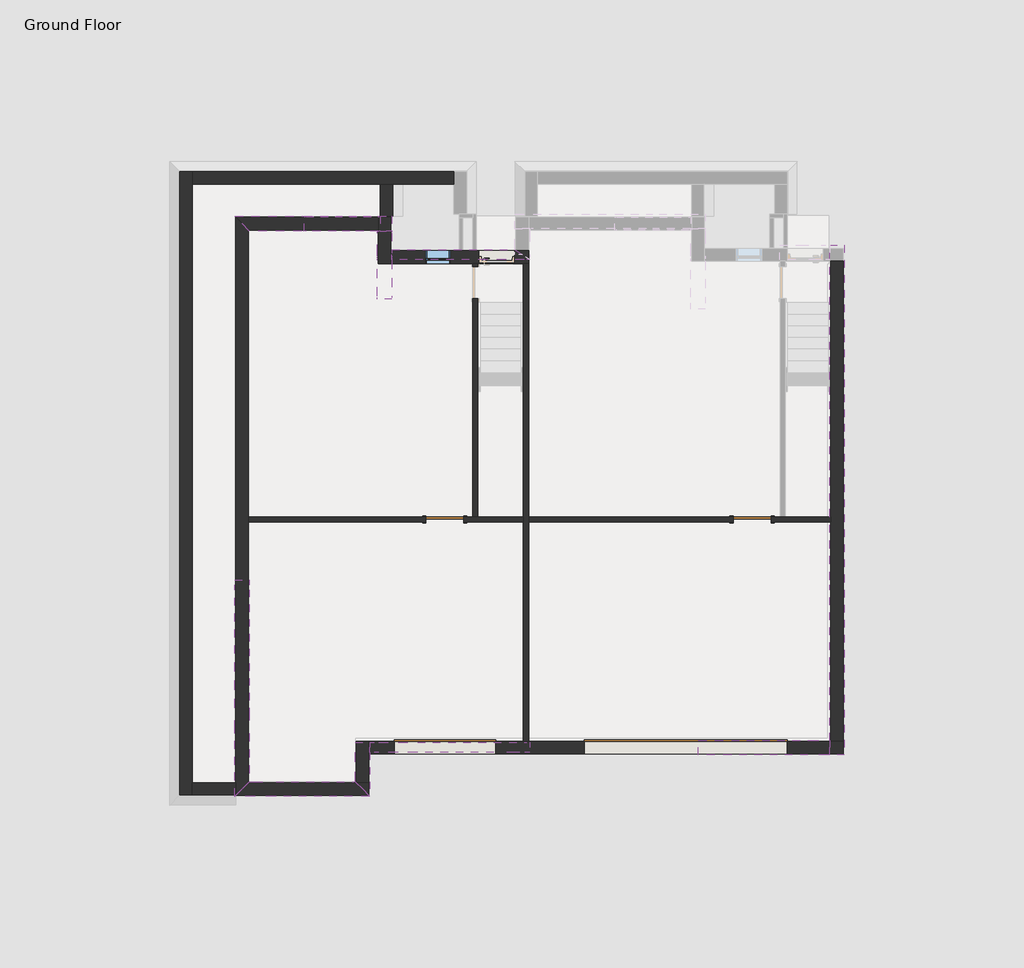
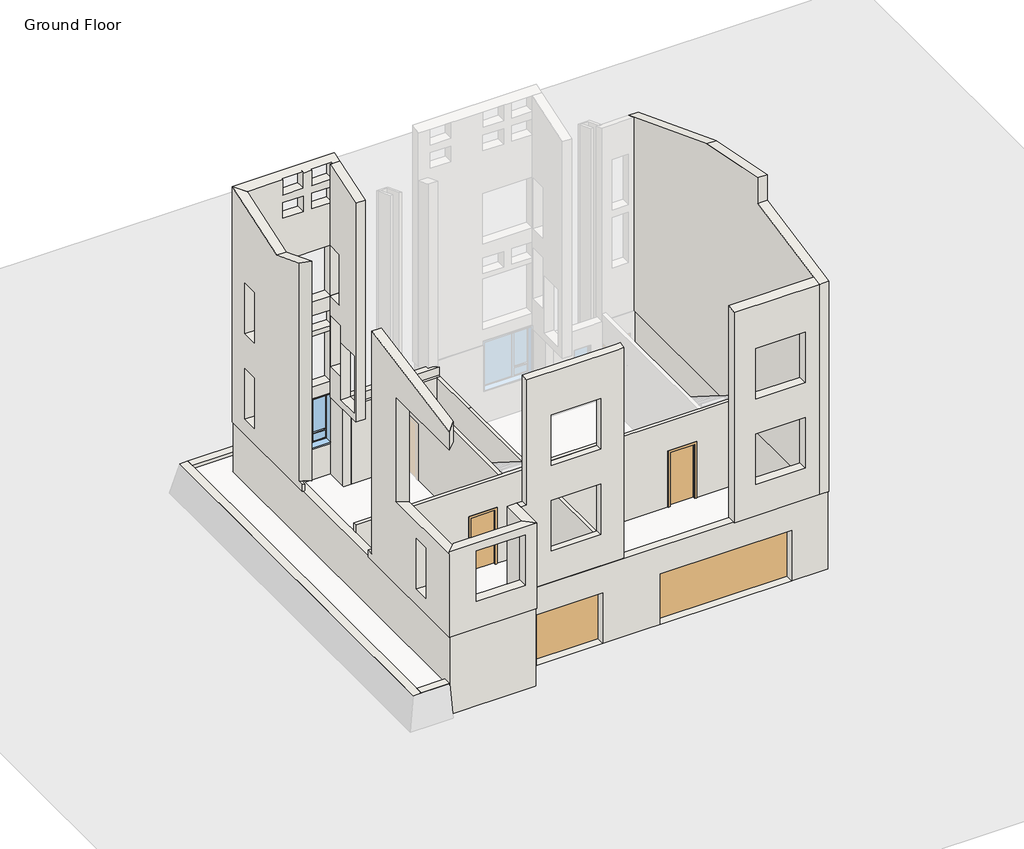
# One storey, part 1 of 2: 25 walls, 4 doors, 2 windows.
"""IFC4 building model written with IfcOpenShell, lengths in millimetres."""

from ifc_helpers import new_model, si_unit, frame, origin, place, context, project, spatial, polyline, outline, extrude, faceted_brep, transform, mapped, element, save
from components import door_03d53f81, door_8bec8b28, door_88503111, window_ca6665d5, window_7b40078c

model = new_model("IFC4")

# Units and contexts
model_context = context("Model", 3, world=origin())
ifc_project = project(units=[si_unit("LENGTHUNIT", "METRE", prefix="MILLI")], contexts=[model_context])

# Site, building, storey
site = spatial("IfcSite", under=ifc_project)
building = spatial("IfcBuilding", under=site)
storey = spatial("IfcBuildingStorey", under=building, Name="Ground Floor", Elevation=-3352.8)

# Doors
placement = place(None, origin())
door_shape = door_03d53f81(model_context)
element("IfcDoor", 1, ObjectType="Door-Overhead-Sectional : 16' x 6'-6\"", at=placement, inside=storey, context=model_context, shape_type="MappedRepresentation", body=[
    mapped(door_shape, transform((2182.7178219, -6034.5046456, -3352.8), x_axis=(1.0, 0.0, 0.0), y_axis=(0.0, 1.0, 0.0), z_axis=(0.0, 0.0, 1.0))),
])
door_2_shape = door_8bec8b28(model_context)
element("IfcDoor", 2, ObjectType="Door-Overhead-Sectional : 8' x 6'-6\"", at=placement, inside=storey, context=model_context, shape_type="MappedRepresentation", body=[
    mapped(door_2_shape, transform((-3608.4821781, -6034.5046456, -3352.8), x_axis=(-1.0, 0.0, 0.0), y_axis=(0.0, -1.0, 0.0), z_axis=(0.0, 0.0, 1.0))),
])
door_3_shape = door_88503111(model_context)
element("IfcDoor", 3, ObjectType="Single-Flush : 36\" x 84\"", at=placement, inside=storey, context=model_context, shape_type="MappedRepresentation", body=[
    mapped(door_3_shape, transform((-3614.4696781, -546.2436915, -3352.8), x_axis=(1.0, 0.0, 0.0), y_axis=(0.0, 1.0, 0.0), z_axis=(0.0, 0.0, 1.0))),
])
element("IfcDoor", 4, ObjectType="Single-Flush : 36\" x 84\"", at=placement, inside=storey, context=model_context, shape_type="MappedRepresentation", body=[
    mapped(door_3_shape, transform((3776.1161072, -551.0718139, -3352.8), x_axis=(1.0, 0.0, 0.0), y_axis=(0.0, 1.0, 0.0), z_axis=(0.0, 0.0, 1.0))),
])

# Walls
element("IfcWall", 5, ObjectType="Exterior - Brick", at=placement, inside=storey, context=model_context, shape_type="Brep", body=[
    faceted_brep([(-5413.4696781, -7206.5436915, -304.8), (-5413.4696781, -6155.1546456, -304.8), (-5413.4696781, -5913.8546456, -304.8), (-5413.4696781, -5913.8546456, 3048.0), (-5413.4696781, -6155.1546456, 3048.0), (-5413.4696781, -7206.5436915, 3048.0), (-5765.8946781, -6854.1186915, -304.8), (-5765.8946781, -6854.1186915, 3048.0), (-5765.8946781, -5913.8546456, 3048.0), (-5765.8946781, -5913.8546456, -304.8)], [[[0, 1, 2, 3, 4, 5]], [[6, 7, 8, 9]], [[2, 1, 0, 6, 9]], [[3, 2, 9, 8]], [[0, 5, 7, 6]], [[5, 4, 3, 8, 7]]]),
])
element("IfcWall", 6, ObjectType="Exterior - Brick on Mtl. Stud", at=placement, inside=storey, context=model_context, shape_type="Brep", body=[
    faceted_brep([(-8312.2446781, 6389.4938085, 8822.2842549), (-8312.2446781, 6389.4938085, 0.0), (-8312.2446781, 6389.4938085, -304.8), (-6989.0821781, 6389.4938085, -304.8), (-6989.0821781, 6389.4938085, -152.4), (-5160.2821781, 6389.4938085, -152.4), (-5160.2821781, 6389.4938085, -304.8), (-4883.0196781, 6389.4938085, -304.8), (-4883.0196781, 6389.4938085, 3657.6), (-5235.4446781, 6389.4938085, 3657.6), (-7048.4446781, 6389.4938085, 3657.6), (-7048.4446781, 6389.4938085, 5638.8), (-5235.4446781, 6389.4938085, 5638.8), (-4883.0196781, 6389.4938085, 5638.8), (-4883.0196781, 6389.4938085, 8822.2842549), (-5160.2821781, 6389.4938085, 8822.2842549), (-5160.2821781, 6389.4938085, 8229.6), (-5922.2821781, 6389.4938085, 8229.6), (-5922.2821781, 6389.4938085, 8822.2842549), (-6227.0821781, 6389.4938085, 8822.2842549), (-6227.0821781, 6389.4938085, 8229.6), (-6989.0821781, 6389.4938085, 8229.6), (-6989.0821781, 6389.4938085, 8822.2842549), (-5160.2821781, 6389.4938085, 3098.8), (-5160.2821781, 6389.4938085, 2489.2), (-5922.2821781, 6389.4938085, 2489.2), (-5922.2821781, 6389.4938085, 3098.8), (-5160.2821781, 6389.4938085, 7924.8), (-5160.2821781, 6389.4938085, 7315.2), (-5922.2821781, 6389.4938085, 7315.2), (-5922.2821781, 6389.4938085, 7924.8), (-6989.0821781, 6389.4938085, 2489.2), (-6989.0821781, 6389.4938085, 3098.8), (-6227.0821781, 6389.4938085, 3098.8), (-6227.0821781, 6389.4938085, 2489.2), (-6227.0821781, 6389.4938085, 7924.8), (-6227.0821781, 6389.4938085, 7315.2), (-6989.0821781, 6389.4938085, 7315.2), (-6989.0821781, 6389.4938085, 7924.8), (-5219.6446781, 6389.4938085, 2286.0), (-5219.6446781, 6389.4938085, 304.8), (-7048.4446781, 6389.4938085, 304.8), (-7048.4446781, 6389.4938085, 2286.0), (-8664.6696781, 6741.9188085, 8938.1680475), (-4883.0196781, 6741.9188085, 8938.1680475), (-4883.0196781, 6741.9188085, -304.8), (-5160.2821781, 6741.9188085, -304.8), (-5160.2821781, 6741.9188085, -152.4), (-6989.0821781, 6741.9188085, -152.4), (-6989.0821781, 6741.9188085, -304.8), (-8664.6696781, 6741.9188085, -304.8), (-5160.2821781, 6741.9188085, 8229.6), (-5160.2821781, 6741.9188085, 8839.2), (-5922.2821781, 6741.9188085, 8839.2), (-5922.2821781, 6741.9188085, 8229.6), (-6227.0821781, 6741.9188085, 8229.6), (-6227.0821781, 6741.9188085, 8839.2), (-6989.0821781, 6741.9188085, 8839.2), (-6989.0821781, 6741.9188085, 8229.6), (-5219.6446781, 6741.9188085, 3657.6), (-5219.6446781, 6741.9188085, 5638.8), (-7048.4446781, 6741.9188085, 5638.8), (-7048.4446781, 6741.9188085, 3657.6), (-5160.2821781, 6741.9188085, 2489.2), (-5160.2821781, 6741.9188085, 3098.8), (-5922.2821781, 6741.9188085, 3098.8), (-5922.2821781, 6741.9188085, 2489.2), (-5160.2821781, 6741.9188085, 7315.2), (-5160.2821781, 6741.9188085, 7924.8), (-5922.2821781, 6741.9188085, 7924.8), (-5922.2821781, 6741.9188085, 7315.2), (-6989.0821781, 6741.9188085, 3098.8), (-6989.0821781, 6741.9188085, 2489.2), (-6227.0821781, 6741.9188085, 2489.2), (-6227.0821781, 6741.9188085, 3098.8), (-6227.0821781, 6741.9188085, 7315.2), (-6227.0821781, 6741.9188085, 7924.8), (-6989.0821781, 6741.9188085, 7924.8), (-6989.0821781, 6741.9188085, 7315.2), (-5219.6446781, 6741.9188085, 304.8), (-5219.6446781, 6741.9188085, 2286.0), (-7048.4446781, 6741.9188085, 2286.0), (-7048.4446781, 6741.9188085, 304.8), (-6989.0821781, 6440.9378573, 8839.2), (-6227.0821781, 6440.9378573, 8839.2), (-5922.2821781, 6440.9378573, 8839.2), (-5160.2821781, 6440.9378573, 8839.2), (-4883.0196781, 6394.6313085, 5638.8), (-4883.0196781, 6394.6313085, 3657.6), (-5219.6446781, 6394.6313085, 3657.6), (-5219.6446781, 6394.6313085, 5638.8)], [[[0, 1, 2, 3, 4, 5, 6, 7, 8, 9, 10, 11, 12, 13, 14, 15, 16, 17, 18, 19, 20, 21, 22], [23, 24, 25, 26], [27, 28, 29, 30], [31, 32, 33, 34], [35, 36, 37, 38], [39, 40, 41, 42]], [[43, 44, 45, 46, 47, 48, 49, 50], [51, 52, 53, 54], [55, 56, 57, 58], [59, 60, 61, 62], [63, 64, 65, 66], [67, 68, 69, 70], [71, 72, 73, 74], [75, 76, 77, 78], [79, 80, 81, 82]], [[45, 7, 6, 46]], [[2, 50, 49, 3]], [[44, 43, 0, 22, 83, 84, 19, 18, 85, 86, 15, 14]], [[7, 45, 44, 14, 13, 87, 88, 8]], [[2, 1, 0, 43, 50]], [[5, 47, 46, 6]], [[48, 4, 3, 49]], [[47, 5, 4, 48]], [[86, 52, 51, 16, 15]], [[16, 51, 54, 17]], [[17, 54, 53, 85, 18]], [[52, 86, 85, 53]], [[84, 56, 55, 20, 19]], [[20, 55, 58, 21]], [[21, 58, 57, 83, 22]], [[56, 84, 83, 57]], [[60, 59, 89, 90]], [[62, 10, 9, 8, 88, 89, 59]], [[10, 62, 61, 11]], [[11, 61, 60, 90, 87, 13, 12]], [[87, 90, 89, 88]], [[23, 64, 63, 24]], [[24, 63, 66, 25]], [[25, 66, 65, 26]], [[64, 23, 26, 65]], [[27, 68, 67, 28]], [[28, 67, 70, 29]], [[29, 70, 69, 30]], [[68, 27, 30, 69]], [[72, 71, 32, 31]], [[73, 72, 31, 34]], [[74, 73, 34, 33]], [[71, 74, 33, 32]], [[36, 35, 76, 75]], [[37, 36, 75, 78]], [[38, 37, 78, 77]], [[35, 38, 77, 76]], [[39, 80, 79, 40]], [[40, 79, 82, 41]], [[41, 82, 81, 42]], [[80, 39, 42, 81]]]),
])
element("IfcWall", 7, ObjectType="Exterior - Brick on Mtl. Stud", at=placement, inside=storey, context=model_context, shape_type="Brep", body=[
    faceted_brep([(-8664.6696781, -7206.5436915, 2952.8), (-8664.6696781, -3770.7811915, 2952.8), (-8664.6696781, -3770.7811915, 7052.8), (-8664.6696781, -7206.5436915, 7052.8), (-8664.6696781, -7206.5436915, 7759.9905277), (-8664.6696781, -2238.8436915, 8711.0519224), (-8664.6696781, -2238.8436915, -28.575), (-8664.6696781, -1997.5436915, -28.575), (-8664.6696781, -1997.5436915, -304.8), (-8664.6696781, -7206.5436915, -304.8), (-8664.6696781, -5688.3425794, 2286.0), (-8664.6696781, -5688.3425794, 304.8), (-8664.6696781, -5078.7425794, 304.8), (-8664.6696781, -5078.7425794, 2286.0), (-8312.2446781, -4012.0811915, 2952.8), (-8312.2446781, -6854.1186915, 2952.8), (-8312.2446781, -6854.1186915, 0.0), (-8312.2446781, -6854.1186915, -304.8), (-8312.2446781, -1997.5436915, -304.8), (-8312.2446781, -1997.5436915, -28.575), (-8312.2446781, -2238.8436915, -28.575), (-8312.2446781, -2238.8436915, 0.0), (-8312.2446781, -2238.8436915, 8711.0519224), (-8312.2446781, -6854.1186915, 7827.4619555), (-8312.2446781, -6854.1186915, 7052.8), (-8312.2446781, -4012.0811915, 7052.8), (-8312.2446781, -5688.3425794, 304.8), (-8312.2446781, -5688.3425794, 2286.0), (-8312.2446781, -5078.7425794, 2286.0), (-8312.2446781, -5078.7425794, 304.8)], [[[0, 1, 2, 3, 4, 5, 6, 7, 8, 9], [10, 11, 12, 13]], [[14, 15, 16, 17, 18, 19, 20, 21, 22, 23, 24, 25], [26, 27, 28, 29]], [[17, 9, 8, 18]], [[1, 0, 15, 14]], [[3, 2, 25, 24]], [[5, 4, 23, 22]], [[6, 20, 19, 7]], [[0, 9, 17, 16, 15]], [[4, 3, 24, 23]], [[6, 5, 22, 21, 20]], [[2, 1, 14, 25]], [[11, 10, 27, 26]], [[12, 11, 26, 29]], [[13, 12, 29, 28]], [[10, 13, 28, 27]], [[8, 7, 19, 18]]]),
    faceted_brep([(-8664.6696781, 2472.0574206, 8523.0431626), (-8664.6696781, 3870.984475, 7984.4952914), (-8664.6696781, 6741.9188085, 8938.7995342), (-8664.6696781, 6741.9188085, -304.8), (-8664.6696781, 2230.7574206, -304.8), (-8664.6696781, 2230.7574206, -28.575), (-8664.6696781, 2472.0574206, -28.575), (-8664.6696781, 5921.5563085, 304.8), (-8664.6696781, 5921.5563085, 2286.0), (-8664.6696781, 5311.9563085, 2286.0), (-8664.6696781, 5311.9563085, 304.8), (-8664.6696781, 5921.5563085, 3657.6), (-8664.6696781, 5921.5563085, 5638.8), (-8664.6696781, 5311.9563085, 5638.8), (-8664.6696781, 5311.9563085, 3657.6), (-8312.2446781, 3870.984475, 7984.4952914), (-8312.2446781, 2230.7574206, 8615.9369278), (-8312.2446781, 2230.7574206, 0.0), (-8312.2446781, 6389.4938085, 0.0), (-8312.2446781, 6389.4938085, 8821.6527681), (-8312.2446781, 5921.5563085, 2286.0), (-8312.2446781, 5921.5563085, 304.8), (-8312.2446781, 5311.9563085, 304.8), (-8312.2446781, 5311.9563085, 2286.0), (-8312.2446781, 5921.5563085, 5638.8), (-8312.2446781, 5921.5563085, 3657.6), (-8312.2446781, 5311.9563085, 3657.6), (-8312.2446781, 5311.9563085, 5638.8), (-8312.2446781, 6389.4938085, -304.8), (-8566.5821781, 6389.4938085, -304.8), (-8566.5821781, 2230.7574206, -304.8), (-8566.5821781, 2230.7574206, -28.575), (-8566.5821781, 2404.8984116, -28.575), (-8566.5821781, 2404.8984116, 0.0), (-8566.5821781, 6389.4938085, 0.0)], [[[0, 1, 2, 3, 4, 5, 6], [7, 8, 9, 10], [11, 12, 13, 14]], [[15, 16, 17, 18, 19], [20, 21, 22, 23], [24, 25, 26, 27]], [[3, 28, 29, 30, 4]], [[6, 5, 31, 32]], [[1, 0, 16, 15]], [[2, 1, 15, 19]], [[0, 6, 32, 33, 17, 16]], [[3, 2, 19, 18, 28]], [[20, 8, 7, 21]], [[21, 7, 10, 22]], [[22, 10, 9, 23]], [[8, 20, 23, 9]], [[25, 24, 12, 11]], [[26, 25, 11, 14]], [[27, 26, 14, 13]], [[24, 27, 13, 12]], [[34, 18, 17, 33]], [[30, 31, 5, 4]], [[29, 34, 33, 32, 31, 30]], [[34, 29, 28, 18]]]),
])
element("IfcWall", 8, ObjectType="Exterior - Brick on Mtl. Stud", at=placement, inside=storey, context=model_context, shape_type="Brep", body=[
    faceted_brep([(-8664.6696781, -7206.5436915, -304.8), (-5413.4696781, -7206.5436915, -304.8), (-5413.4696781, -7206.5436915, 3048.0), (-8664.6696781, -7206.5436915, 3048.0), (-7671.3168819, -7206.5436915, 762.0), (-7671.3168819, -7206.5436915, 2743.2), (-5842.5168819, -7206.5436915, 2743.2), (-5842.5168819, -7206.5436915, 762.0), (-5765.8946781, -6854.1186915, -304.8), (-8312.2446781, -6854.1186915, -304.8), (-8312.2446781, -6854.1186915, 3048.0), (-5765.8946781, -6854.1186915, 3048.0), (-7671.3168819, -6854.1186915, 2743.2), (-7671.3168819, -6854.1186915, 762.0), (-5842.5168819, -6854.1186915, 762.0), (-5842.5168819, -6854.1186915, 2743.2)], [[[0, 1, 2, 3], [4, 5, 6, 7]], [[8, 9, 10, 11], [12, 13, 14, 15]], [[1, 0, 9, 8]], [[2, 1, 8, 11]], [[0, 3, 10, 9]], [[3, 2, 11, 10]], [[12, 5, 4, 13]], [[13, 4, 7, 14]], [[14, 7, 6, 15]], [[5, 12, 15, 6]]]),
])
element("IfcWall", 9, ObjectType="Exterior - Brick on Mtl. Stud", at=placement, inside=storey, context=model_context, shape_type="Brep", body=[
    faceted_brep([(5995.0780789, 6051.0812973, -304.8), (5995.0780789, 6051.0812973, 7133.9127133), (5995.0780789, 1023.3611207, 9069.4446552), (5995.0780789, -2238.8436915, 9713.3498366), (5995.0780789, -2238.8436915, 8705.6), (5995.0780789, -6210.7171456, 7938.1143772), (5995.0780789, -6210.7171456, -304.8), (5642.6530789, 6051.0812973, -304.8), (5642.6530789, 5698.6562973, -304.8), (5642.6530789, -5858.2921456, -304.8), (5642.6530789, -6210.7171456, -304.8), (5642.6530789, -6210.7171456, 7938.1143772), (5642.6530789, -5858.2921456, 8006.2135057), (5642.6530789, -2238.8436915, 8705.6), (5642.6530789, -2238.8436915, 9713.3498366), (5642.6530789, -1997.5436915, 9665.7212145), (5642.6530789, 1023.3611207, 9069.4446552), (5642.6530789, 5698.6562973, 7269.5865019), (5642.6530789, 6051.0812973, 7133.9127133)], [[[0, 1, 2, 3, 4, 5, 6]], [[7, 8, 9, 10, 11, 12, 13, 14, 15, 16, 17, 18]], [[10, 9, 8, 7, 0, 6]], [[11, 10, 6, 5]], [[7, 18, 1, 0]], [[3, 14, 13, 4]], [[13, 12, 11, 5, 4]], [[18, 17, 16, 2, 1]], [[16, 15, 14, 3, 2]]]),
])
element("IfcWall", 10, ObjectType="Exterior - Brick on Mtl. Stud", at=placement, inside=storey, context=model_context, shape_type="Brep", body=[
    faceted_brep([(-4883.0196781, 4753.1563085, -304.8), (-4883.0196781, 5697.0687973, -304.8), (-4883.0196781, 5938.3687973, -304.8), (-4883.0196781, 6389.4938085, -304.8), (-4883.0196781, 6389.4938085, 3657.6), (-4883.0196781, 5785.0313085, 3657.6), (-4883.0196781, 5785.0313085, 5638.8), (-4883.0196781, 6389.4938085, 5638.8), (-4883.0196781, 6389.4938085, 8822.2842549), (-4883.0196781, 4753.1563085, 8284.2265248), (-4883.0196781, 4826.1813085, 0.0), (-4883.0196781, 4826.1813085, 2235.2), (-4883.0196781, 5689.7813085, 2235.2), (-4883.0196781, 5689.7813085, 0.0), (-4883.0196781, 5734.2313085, 914.4), (-4883.0196781, 5734.2313085, 2895.6), (-4883.0196781, 6343.8313085, 2895.6), (-4883.0196781, 6343.8313085, 914.4), (-5235.4446781, 6389.4938085, -304.8), (-5235.4446781, 4753.1563085, -304.8), (-5235.4446781, 4753.1563085, 0.0), (-5235.4446781, 4753.1563085, 6705.6), (-5235.4446781, 4753.1563085, 8284.2265248), (-5235.4446781, 6389.4938085, 8822.2842549), (-5235.4446781, 6389.4938085, 5638.8), (-5235.4446781, 5785.0313085, 5638.8), (-5235.4446781, 5785.0313085, 3657.6), (-5235.4446781, 6389.4938085, 3657.6), (-5235.4446781, 4826.1813085, 0.0), (-5235.4446781, 5689.7813085, 0.0), (-5235.4446781, 5689.7813085, 2235.2), (-5235.4446781, 4826.1813085, 2235.2), (-5235.4446781, 5734.2313085, 2895.6), (-5235.4446781, 5734.2313085, 914.4), (-5235.4446781, 6343.8313085, 914.4), (-5235.4446781, 6343.8313085, 2895.6), (-5160.2821781, 6389.4938085, -304.8), (-5160.2821781, 6389.4938085, 8822.2842549)], [[[0, 1, 2, 3, 4, 5, 6, 7, 8, 9], [10, 11, 12, 13], [14, 15, 16, 17]], [[18, 19, 20, 21, 22, 23, 24, 25, 26, 27], [28, 29, 30, 31], [32, 33, 34, 35]], [[19, 18, 36, 3, 2, 1, 0]], [[11, 10, 28, 31]], [[12, 11, 31, 30]], [[13, 12, 30, 29]], [[10, 13, 29, 28]], [[23, 22, 9, 8, 37]], [[22, 21, 20, 19, 0, 9]], [[32, 15, 14, 33]], [[33, 14, 17, 34]], [[34, 17, 16, 35]], [[15, 32, 35, 16]], [[25, 6, 5, 26]], [[26, 5, 4, 27]], [[6, 25, 24, 7]], [[3, 36, 18, 27, 4]], [[23, 37, 8, 7, 24]]]),
])
element("IfcWall", 11, ObjectType="Exterior - Brick on Mtl. Stud", at=placement, inside=storey, context=model_context, shape_type="Brep", body=[
    faceted_brep([(2477.8178219, -5858.2921456, -304.8), (5642.6530789, -5858.2921456, -304.8), (5642.6530789, -6210.7171456, -304.8), (2477.8178219, -6210.7171456, -304.8), (2477.8178219, -5858.2921456, 8006.2135057), (5642.6530789, -5858.2921456, 8006.2135057), (3280.9655789, -5858.2921456, 6248.4), (3280.9655789, -5858.2921456, 4267.2), (5109.7655789, -5858.2921456, 4267.2), (5109.7655789, -5858.2921456, 6248.4), (3280.9655789, -5858.2921456, 2895.6), (3280.9655789, -5858.2921456, 914.4), (5109.7655789, -5858.2921456, 914.4), (5109.7655789, -5858.2921456, 2895.6), (5642.6530789, -6210.7171456, 7938.1143772), (2477.8178219, -6210.7171456, 7938.1143772), (3280.9655789, -6210.7171456, 4267.2), (3280.9655789, -6210.7171456, 6248.4), (5109.7655789, -6210.7171456, 6248.4), (5109.7655789, -6210.7171456, 4267.2), (3280.9655789, -6210.7171456, 914.4), (3280.9655789, -6210.7171456, 2895.6), (5109.7655789, -6210.7171456, 2895.6), (5109.7655789, -6210.7171456, 914.4)], [[[0, 1, 2, 3]], [[1, 0, 4, 5], [6, 7, 8, 9], [10, 11, 12, 13]], [[3, 2, 14, 15], [16, 17, 18, 19], [20, 21, 22, 23]], [[1, 5, 14, 2]], [[4, 0, 3, 15]], [[5, 4, 15, 14]], [[6, 17, 16, 7]], [[7, 16, 19, 8]], [[8, 19, 18, 9]], [[17, 6, 9, 18]], [[10, 21, 20, 11]], [[11, 20, 23, 12]], [[12, 23, 22, 13]], [[21, 10, 13, 22]]]),
])
element("IfcWall", 12, ObjectType="Exterior - Stucco", at=placement, inside=storey, context=model_context, shape_type="Brep", body=[
    faceted_brep([(-1928.5446781, 5938.3687973, -304.8), (-4883.0196781, 5938.3687973, -304.8), (-4883.0196781, 5938.3687973, 0.0), (-3024.9735601, 5938.3687973, 0.0), (-1928.5446781, 5938.3687973, 0.0), (-1576.1196781, 5697.0687973, -304.8), (-1576.1196781, 5697.0687973, 0.0), (-1699.9446781, 5697.0687973, 0.0), (-3024.9735601, 5697.0687973, 0.0), (-4883.0196781, 5697.0687973, 0.0), (-4883.0196781, 5697.0687973, -304.8)], [[[0, 1, 2, 3, 4]], [[5, 6, 7, 8, 9, 10]], [[1, 0, 5, 10]], [[4, 3, 2, 9, 8, 7, 6]], [[0, 4, 6, 5]], [[2, 1, 10, 9]]]),
])
element("IfcWall", 13, ObjectType="Exterior - Stucco", at=placement, inside=storey, context=model_context, shape_type="Brep", body=[
    faceted_brep([(-5413.4696781, -5913.8546456, -304.8), (-1576.1196781, -5913.8546456, -304.8), (-1576.1196781, -6155.1546456, -304.8), (-1817.4196781, -6155.1546456, -304.8), (-5413.4696781, -6155.1546456, -304.8), (-5413.4696781, -5913.8546456, 3048.0), (-5204.2321781, -5913.8546456, 3048.0), (-5204.2321781, -5913.8546456, 7995.4771566), (-1699.9446781, -5913.8546456, 7995.4771566), (-1576.1196781, -5913.8546456, 7995.4771566), (-1576.1196781, -5913.8546456, 0.0), (-2438.2515857, -5913.8546456, 6248.4), (-4267.0515857, -5913.8546456, 6248.4), (-4267.0515857, -5913.8546456, 4267.2), (-2438.2515857, -5913.8546456, 4267.2), (-2438.2515857, -5913.8546456, 2895.6), (-4267.0515857, -5913.8546456, 2895.6), (-4267.0515857, -5913.8546456, 914.4), (-2438.2515857, -5913.8546456, 914.4), (-1576.1196781, -6155.1546456, 7948.8507263), (-1817.4196781, -6155.1546456, 7948.8507263), (-5204.2321781, -6155.1546456, 7948.8507263), (-5204.2321781, -6155.1546456, 7052.6671875), (-5204.2321781, -6155.1546456, 3048.0), (-5413.4696781, -6155.1546456, 3048.0), (-2438.2515857, -6155.1546456, 6248.4), (-2438.2515857, -6155.1546456, 4267.2), (-4267.0515857, -6155.1546456, 4267.2), (-4267.0515857, -6155.1546456, 6248.4), (-2438.2515857, -6155.1546456, 2895.6), (-2438.2515857, -6155.1546456, 914.4), (-4267.0515857, -6155.1546456, 914.4), (-4267.0515857, -6155.1546456, 2895.6)], [[[0, 1, 2, 3, 4]], [[1, 0, 5, 6, 7, 8, 9, 10], [11, 12, 13, 14], [15, 16, 17, 18]], [[2, 19, 20, 21, 22, 23, 24, 4, 3], [25, 26, 27, 28], [29, 30, 31, 32]], [[5, 0, 4, 24]], [[1, 10, 9, 19, 2]], [[21, 7, 6, 23, 22]], [[6, 5, 24, 23]], [[9, 8, 7, 21, 20, 19]], [[26, 25, 11, 14]], [[27, 26, 14, 13]], [[28, 27, 13, 12]], [[25, 28, 12, 11]], [[30, 29, 15, 18]], [[31, 30, 18, 17]], [[32, 31, 17, 16]], [[29, 32, 16, 15]]]),
])
element("IfcWall", 14, ObjectType="Foundation - 12\" Concrete", at=placement, inside=storey, context=model_context, shape_type="Brep", body=[
    faceted_brep([(-8639.2696781, 6718.1063085, -5181.6), (-5211.6321781, 6718.1063085, -5181.6), (-5211.6321781, 6413.3063085, -5181.6), (-8334.4696781, 6413.3063085, -5181.6), (-8639.2696781, 6718.1063085, -304.8), (-6989.0821781, 6718.1063085, -304.8), (-6989.0821781, 6718.1063085, -2133.6), (-5211.6321781, 6718.1063085, -2133.6), (-5211.6321781, 6413.3063085, -2133.6), (-6989.0821781, 6413.3063085, -2133.6), (-6989.0821781, 6413.3063085, -304.8), (-8334.4696781, 6413.3063085, -304.8)], [[[0, 1, 2, 3]], [[1, 0, 4, 5, 6, 7]], [[3, 2, 8, 9, 10, 11]], [[4, 11, 10, 5]], [[4, 0, 3, 11]], [[2, 1, 7, 8]], [[6, 9, 8, 7]], [[9, 6, 5, 10]]]),
])
element("IfcWall", 15, ObjectType="Foundation - 12\" Concrete", at=placement, inside=storey, context=model_context, shape_type="Brep", body=[
    faceted_brep([(-8639.2696781, -7182.7311915, -5181.6), (-5437.2821781, -7182.7311915, -5181.6), (-5437.2821781, -7182.7311915, -304.8), (-8639.2696781, -7182.7311915, -304.8), (-8334.4696781, -6877.9311915, -5181.6), (-8334.4696781, -6877.9311915, -304.8), (-5742.0821781, -6877.9311915, -304.8), (-5437.2821781, -6877.9311915, -304.8), (-5437.2821781, -6877.9311915, -5181.6), (-5742.0821781, -6877.9311915, -5181.6)], [[[0, 1, 2, 3]], [[4, 5, 6, 7, 8, 9]], [[1, 0, 4, 9, 8]], [[3, 2, 7, 6, 5]], [[2, 1, 8, 7]], [[0, 3, 5, 4]]]),
])
element("IfcWall", 16, ObjectType="Foundation - 12\" Concrete", at=placement, inside=storey, context=model_context, shape_type="Brep", body=[
    faceted_brep([(-5437.2821781, -6877.9311915, -5181.6), (-5437.2821781, -6186.9046456, -5181.6), (-5437.2821781, -5882.1046456, -5181.6), (-5437.2821781, -5882.1046456, -304.8), (-5437.2821781, -6186.9046456, -304.8), (-5437.2821781, -6877.9311915, -304.8), (-5742.0821781, -6877.9311915, -5181.6), (-5742.0821781, -6877.9311915, -304.8), (-5742.0821781, -5882.1046456, -304.8), (-5742.0821781, -5882.1046456, -5181.6)], [[[0, 1, 2, 3, 4, 5]], [[6, 7, 8, 9]], [[2, 1, 0, 6, 9]], [[5, 4, 3, 8, 7]], [[3, 2, 9, 8]], [[0, 5, 7, 6]]]),
])
element("IfcWall", 17, ObjectType="Foundation - 12\" Concrete", at=placement, inside=storey, context=model_context, shape_type="Brep", body=[
    faceted_brep([(-5437.2821781, -6186.9046456, -5181.6), (5971.2655789, -6186.9046456, -5181.6), (5971.2655789, -6186.9046456, -304.8), (-5437.2821781, -6186.9046456, -304.8), (-4827.6821781, -6186.9046456, -3352.8), (-4827.6821781, -6186.9046456, -1371.6), (-2389.2821781, -6186.9046456, -1371.6), (-2389.2821781, -6186.9046456, -3352.8), (4621.1178219, -6186.9046456, -1371.6), (4621.1178219, -6186.9046456, -3352.8), (-255.6821781, -6186.9046456, -3352.8), (-255.6821781, -6186.9046456, -1371.6), (5971.2655789, -5882.1046456, -5181.6), (5666.4655789, -5882.1046456, -5181.6), (-5437.2821781, -5882.1046456, -5181.6), (-5437.2821781, -5882.1046456, -304.8), (5666.4655789, -5882.1046456, -304.8), (5971.2655789, -5882.1046456, -304.8), (-4827.6821781, -5882.1046456, -1371.6), (-4827.6821781, -5882.1046456, -3352.8), (-2389.2821781, -5882.1046456, -3352.8), (-2389.2821781, -5882.1046456, -1371.6), (4621.1178219, -5882.1046456, -3352.8), (4621.1178219, -5882.1046456, -1371.6), (-255.6821781, -5882.1046456, -1371.6), (-255.6821781, -5882.1046456, -3352.8)], [[[0, 1, 2, 3], [4, 5, 6, 7], [8, 9, 10, 11]], [[12, 13, 14, 15, 16, 17], [18, 19, 20, 21], [22, 23, 24, 25]], [[1, 0, 14, 13, 12]], [[3, 2, 17, 16, 15]], [[0, 3, 15, 14]], [[2, 1, 12, 17]], [[5, 4, 19, 18]], [[6, 5, 18, 21]], [[7, 6, 21, 20]], [[4, 7, 20, 19]], [[22, 9, 8, 23]], [[23, 8, 11, 24]], [[24, 11, 10, 25]], [[9, 22, 25, 10]]]),
])
element("IfcWall", 18, ObjectType="Foundation - 12\" Concrete", at=placement, inside=storey, context=model_context, shape_type="SweptSolid", body=[
    extrude(outline(polyline([(5971.2655789, 5665.3187973), (5971.2655789, -5882.1046456), (5666.4655789, -5882.1046456), (5666.4655789, 5665.3187973), (5971.2655789, 5665.3187973)])), frame((0.0, 0.0, -5181.6), z_axis=(0.0, 0.0, 1.0), x_axis=(1.0, 0.0, 0.0)), (0.0, 0.0, 1.0), 4876.8),
])
element("IfcWall", 19, ObjectType="Foundation - 12\" Concrete", at=placement, inside=storey, context=model_context, shape_type="Brep", body=[
    faceted_brep([(-5211.6321781, 5608.1687973, -5181.6), (-5211.6321781, 6413.3063085, -5181.6), (-5211.6321781, 6718.1063085, -5181.6), (-4906.8321781, 6718.1063085, -5181.6), (-4906.8321781, 5912.9687973, -5181.6), (-4906.8321781, 5608.1687973, -5181.6), (-4906.8321781, 5608.1687973, -304.8), (-4906.8321781, 5912.9687973, -304.8), (-4906.8321781, 6718.1063085, -304.8), (-5160.2821781, 6718.1063085, -304.8), (-5160.2821781, 6389.4938085, -304.8), (-5211.6321781, 6389.4938085, -304.8), (-5211.6321781, 5608.1687973, -304.8), (-5211.6321781, 6389.4938085, -2133.6), (-5211.6321781, 6413.3063085, -2133.6), (-5211.6321781, 6718.1063085, -2133.6), (-5160.2821781, 6718.1063085, -2133.6), (-5160.2821781, 6389.4938085, -2133.6)], [[[0, 1, 2, 3, 4, 5]], [[6, 7, 8, 9, 10, 11, 12]], [[2, 1, 0, 12, 11, 13, 14, 15]], [[5, 4, 3, 8, 7, 6]], [[8, 3, 2, 15, 16, 9]], [[12, 0, 5, 6]], [[10, 17, 13, 11]], [[16, 17, 10, 9]], [[17, 16, 15, 14, 13]]]),
])
element("IfcWall", 20, ObjectType="Foundation - 12\" Concrete", at=placement, inside=storey, context=model_context, shape_type="Brep", body=[
    faceted_brep([(-1599.9321781, 5608.1687973, -5181.6), (-4906.8321781, 5608.1687973, -5181.6), (-4906.8321781, 5912.9687973, -5181.6), (-1904.7321781, 5912.9687973, -5181.6), (-1599.9321781, 5912.9687973, -5181.6), (-4906.8321781, 5608.1687973, -304.8), (-1599.9321781, 5608.1687973, -304.8), (-1599.9321781, 5912.9687973, -304.8), (-1904.7321781, 5912.9687973, -304.8), (-4906.8321781, 5912.9687973, -304.8), (-4080.6610601, 5608.1687973, -1066.8), (-3471.0610601, 5608.1687973, -1066.8), (-3471.0610601, 5608.1687973, -3048.0), (-4080.6610601, 5608.1687973, -3048.0), (-1930.1321781, 5608.1687973, -3352.8), (-2793.7321781, 5608.1687973, -3352.8), (-2793.7321781, 5608.1687973, -1117.6), (-1930.1321781, 5608.1687973, -1117.6), (-4080.6610601, 5912.9687973, -1066.8), (-4080.6610601, 5912.9687973, -3048.0), (-3471.0610601, 5912.9687973, -3048.0), (-3471.0610601, 5912.9687973, -1066.8), (-1930.1321781, 5912.9687973, -3352.8), (-1930.1321781, 5912.9687973, -1117.6), (-2793.7321781, 5912.9687973, -1117.6), (-2793.7321781, 5912.9687973, -3352.8)], [[[0, 1, 2, 3, 4]], [[5, 6, 7, 8, 9]], [[1, 0, 6, 5], [10, 11, 12, 13], [14, 15, 16, 17]], [[2, 9, 8, 7, 4, 3], [18, 19, 20, 21], [22, 23, 24, 25]], [[1, 5, 9, 2]], [[6, 0, 4, 7]], [[19, 18, 10, 13]], [[20, 19, 13, 12]], [[21, 20, 12, 11]], [[18, 21, 11, 10]], [[23, 22, 14, 17]], [[24, 23, 17, 16]], [[25, 24, 16, 15]], [[22, 25, 15, 14]]]),
])
element("IfcWall", 21, ObjectType="Foundation - 12\" Concrete", at=placement, inside=storey, context=model_context, shape_type="SweptSolid", body=[
    extrude(outline(polyline([(-8639.2696781, -7182.7311915), (-8639.2696781, 6718.1063085), (-8334.4696781, 6413.3063085), (-8334.4696781, -6877.9311915), (-8639.2696781, -7182.7311915)])), frame((0.0, 0.0, -5181.6), z_axis=(0.0, 0.0, 1.0), x_axis=(1.0, 0.0, 0.0)), (0.0, 0.0, 1.0), 4876.8),
])
element("IfcWall", 22, ObjectType="Interior - 4 7/8\" Partition (1-hr)", at=placement, inside=storey, context=model_context, shape_type="Brep", body=[
    faceted_brep([(-1723.7571781, 5608.1687973, -3352.8), (-1723.7571781, 5608.1687973, -304.8), (-1599.9321781, 5608.1687973, -304.8), (-1599.9321781, 5608.1687973, -3352.8), (-1723.7571781, -5882.1046456, -304.8), (-1723.7571781, -5882.1046456, -3352.8), (-1599.9321781, -5882.1046456, -3352.8), (-1599.9321781, -5882.1046456, -304.8), (-1599.9321781, 3603.8062973, -304.8), (-1599.9321781, -384.9686915, -304.8), (-1599.9321781, -612.9843139, -3352.8), (-1599.9321781, -489.1593139, -3352.8), (-1723.7571781, -484.3311915, -3352.8), (-1723.7571781, -608.1561915, -3352.8), (-1723.7571781, -384.9686915, -304.8), (-1723.7571781, 3603.8062973, -304.8)], [[[0, 1, 2, 3]], [[4, 5, 6, 7]], [[3, 2, 8, 9, 7, 6, 10, 11]], [[0, 12, 13, 5, 4, 14, 15, 1]], [[5, 13, 12, 0, 3, 11, 10, 6]], [[15, 14, 9, 8]], [[14, 4, 7, 9]], [[1, 15, 8, 2]]]),
])
element("IfcWall", 23, ObjectType="Interior - 4 7/8\" Partition (1-hr)", at=placement, inside=storey, context=model_context, shape_type="Brep", body=[
    faceted_brep([(-8330.0446781, -484.3311915, 0.0), (-8330.0446781, -484.3311915, -3352.8), (-8330.0446781, -608.1561915, -3352.8), (-8330.0446781, -608.1561915, 0.0), (-1723.7571781, -608.1561915, -3352.8), (-3157.2696781, -608.1561915, -3352.8), (-3157.2696781, -484.3311915, -3352.8), (-2939.7821781, -484.3311915, -3352.8), (-2815.9571781, -484.3311915, -3352.8), (-1723.7571781, -484.3311915, -3352.8), (-4071.6696781, -608.1561915, -3352.8), (-4071.6696781, -484.3311915, -3352.8), (-1723.7571781, -484.3311915, 0.0), (-2815.9571781, -484.3311915, 0.0), (-2939.7821781, -484.3311915, 0.0), (-1723.7571781, -608.1561915, 0.0), (-3157.2696781, -484.3311915, -1219.2), (-4071.6696781, -484.3311915, -1219.2), (-3157.2696781, -608.1561915, -1219.2), (-4071.6696781, -608.1561915, -1219.2)], [[[0, 1, 2, 3]], [[4, 5, 6, 7, 8, 9]], [[10, 2, 1, 11]], [[12, 13, 14, 0, 3, 15]], [[9, 8, 7, 6, 16, 17, 11, 1, 0, 14, 13, 12]], [[18, 5, 4, 15, 3, 2, 10, 19]], [[9, 12, 15, 4]], [[16, 6, 5, 18]], [[17, 16, 18, 19]], [[11, 17, 19, 10]]]),
])
element("IfcWall", 24, ObjectType="Interior - 4 7/8\" Partition (1-hr)", at=placement, inside=storey, context=model_context, shape_type="Brep", body=[
    faceted_brep([(5666.4655789, -612.9843139, 0.0), (5666.4655789, -612.9843139, -3352.8), (5666.4655789, -489.1593139, -3352.8), (5666.4655789, -489.1593139, 0.0), (4233.3161072, -612.9843139, -3352.8), (4233.3161072, -489.1593139, -3352.8), (4450.4405789, -489.1593139, -3352.8), (4574.2655789, -489.1593139, -3352.8), (3318.9161072, -612.9843139, -3352.8), (-1599.9321781, -612.9843139, -3352.8), (-1599.9321781, -489.1593139, -3352.8), (3318.9161072, -489.1593139, -3352.8), (-1599.9321781, -612.9843139, 0.0), (4574.2655789, -489.1593139, 0.0), (4450.4405789, -489.1593139, 0.0), (-1599.9321781, -489.1593139, 0.0), (4233.3161072, -612.9843139, -1219.2), (3318.9161072, -612.9843139, -1219.2), (4233.3161072, -489.1593139, -1219.2), (3318.9161072, -489.1593139, -1219.2)], [[[0, 1, 2, 3]], [[1, 4, 5, 6, 7, 2]], [[8, 9, 10, 11]], [[12, 0, 3, 13, 14, 15]], [[16, 4, 1, 0, 12, 9, 8, 17]], [[2, 7, 6, 5, 18, 19, 11, 10, 15, 14, 13, 3]], [[9, 12, 15, 10]], [[18, 5, 4, 16]], [[19, 18, 16, 17]], [[11, 19, 17, 8]]]),
])
element("IfcWall", 25, ObjectType="Interior - 4 7/8\" Partition (1-hr)", at=placement, inside=storey, context=model_context, shape_type="SweptSolid", body=[
    extrude(outline(polyline([(5608.1687973, 0.0), (5608.1687973, -3352.8), (5531.9688085, -3352.8), (5531.9688085, -1219.2), (4769.9688085, -1219.2), (4769.9688085, -3352.8), (-484.3311915, -3352.8), (-484.3311915, 0.0), (5608.1687973, 0.0)])), frame((-2939.7821781, 0.0, 0.0), z_axis=(1.0, 0.0, 0.0), x_axis=(0.0, 1.0, 0.0)), (0.0, 0.0, 1.0), 123.825),
])
element("IfcWall", 26, ObjectType="Retaining - Stone", at=placement, inside=storey, context=model_context, shape_type="Brep", body=[
    faceted_brep([(-9685.91894, -7182.7311915, -3352.8), (-9685.91894, -6877.9311915, -3352.8), (-9685.9189399, 7517.5188085, -3352.8), (-9685.9189399, 7822.3188085, -3352.8), (-9685.9189399, 7822.3188085, -2133.6), (-9685.9189399, 7517.5188085, -2133.6), (-9685.91894, -6877.9311915, -2133.6), (-9685.91894, -7182.7311915, -2133.6), (-9990.7189399, 7822.3188085, -3352.8), (-9990.71894, -7182.7311915, -3352.8), (-9990.71894, -7182.7311915, -2133.6), (-9990.7189399, 7822.3188085, -2133.6)], [[[0, 1, 2, 3, 4, 5, 6, 7]], [[8, 9, 10, 11]], [[3, 2, 1, 0, 9, 8]], [[7, 6, 5, 4, 11, 10]], [[4, 3, 8, 11]], [[0, 7, 10, 9]]]),
])
element("IfcWall", 27, ObjectType="Retaining - Stone", at=placement, inside=storey, context=model_context, shape_type="Brep", body=[
    faceted_brep([(-9685.9189399, 7517.5188085, -3352.8), (-5160.8321781, 7517.5188085, -3352.8), (-4856.0321781, 7517.5188085, -3352.8), (-3395.312033, 7517.5188085, -3352.8), (-3395.312033, 7517.5188085, -2133.6), (-4856.0321781, 7517.5188085, -2133.6), (-5160.8321781, 7517.5188085, -2133.6), (-9685.9189399, 7517.5188085, -2133.6), (-3395.312033, 7822.3188085, -3352.8), (-9685.9189399, 7822.3188085, -3352.8), (-9685.9189399, 7822.3188085, -2133.6), (-3395.312033, 7822.3188085, -2133.6)], [[[0, 1, 2, 3, 4, 5, 6, 7]], [[8, 9, 10, 11]], [[3, 2, 1, 0, 9, 8]], [[7, 6, 5, 4, 11, 10]], [[0, 7, 10, 9]], [[4, 3, 8, 11]]]),
])
element("IfcWall", 28, ObjectType="Retaining - Stone", at=placement, inside=storey, context=model_context, shape_type="SweptSolid", body=[
    extrude(outline(polyline([(-5160.8321781, 6743.5063085), (-5160.8321781, 7517.5188085), (-4856.0321781, 7517.5188085), (-4856.0321781, 6743.5063085), (-5160.8321781, 6743.5063085)])), frame((0.0, 0.0, -3352.8), z_axis=(0.0, 0.0, 1.0), x_axis=(1.0, 0.0, 0.0)), (0.0, 0.0, 1.0), 1219.2),
])
element("IfcWall", 29, ObjectType="Retaining - Stone", at=placement, inside=storey, context=model_context, shape_type="SweptSolid", body=[
    extrude(outline(polyline([(-8634.8446781, -7182.7311915), (-9685.91894, -7182.7311915), (-9685.91894, -6877.9311915), (-8634.8446781, -6877.9311915), (-8634.8446781, -7182.7311915)])), frame((0.0, 0.0, -3352.8), z_axis=(0.0, 0.0, 1.0), x_axis=(1.0, 0.0, 0.0)), (0.0, 0.0, 1.0), 1219.2),
])

# Windows
window_shape = window_ca6665d5(model_context)
element("IfcWindow", 30, ObjectType="Fixed : 24\" x 78\"", at=placement, inside=storey, context=model_context, shape_type="MappedRepresentation", body=[
    mapped(window_shape, transform((-3813.9610601, 5760.5687973, -3352.8), x_axis=(-1.0, 0.0, 0.0), y_axis=(0.0, -1.0, 0.0), z_axis=(0.0, 0.0, 1.0))),
])
window_2_shape = window_7b40078c(model_context)
element("IfcWindow", 31, ObjectType="Window-Casement-Double-Sidelight : 72\" x 78\"", at=placement, inside=storey, context=model_context, shape_type="MappedRepresentation", body=[
    mapped(window_2_shape, transform((-6074.6821781, 6565.7063085, -3048.0), x_axis=(1.0, 0.0, 0.0), y_axis=(0.0, 1.0, 0.0), z_axis=(0.0, 0.0, 1.0))),
])

save(model, "model.ifc")
